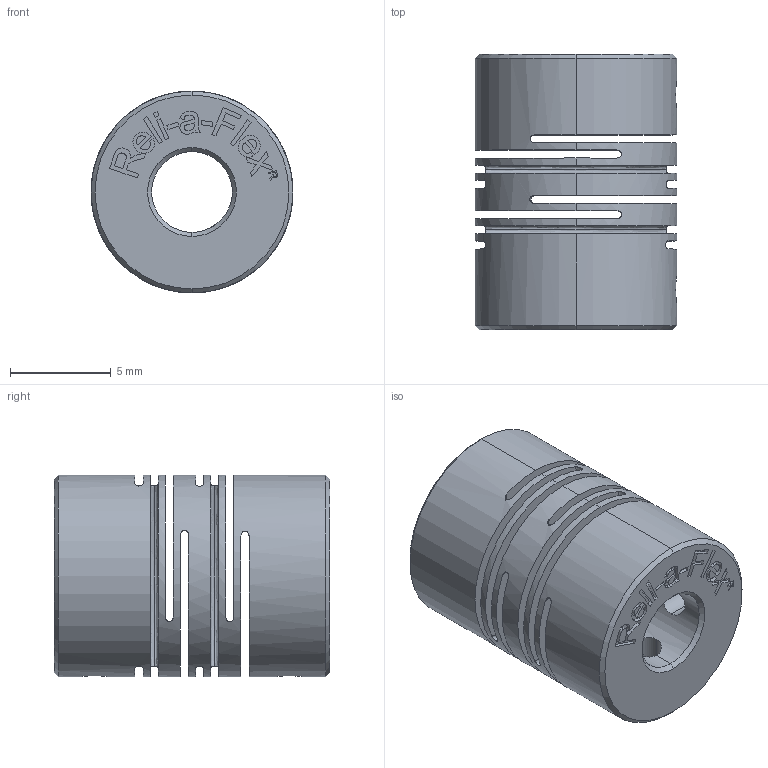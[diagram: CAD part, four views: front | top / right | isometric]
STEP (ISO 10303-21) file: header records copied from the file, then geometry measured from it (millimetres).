
FILE_DESCRIPTION (( 'STEP AP203' ), '1' );
FILE_NAME ('RCSA10-4-4.STEP', '2012-04-26T18:32:02', ( 'render' ), ( '' ), 'SwSTEP 2.0', 'SolidWorks 2011', '' );
FILE_SCHEMA (( 'CONFIG_CONTROL_DESIGN' ));
Length unit declared in the file: millimetre
Products named in the file (1): RCSA10-4-4
Bounding box: 10 x 13.65 x 10 mm (x, y, z)
Volume: 700.9 mm3; surface area: 1502.7 mm2
Topology: 1 solids, 1 shells, 212 faces, 576 edges, 382 vertices
Faces by surface type: plane 120, cylinder 68, bspline 16, cone 8
Entity records: 7455 total; most frequent: CARTESIAN_POINT 2011, ORIENTED_EDGE 1152, DIRECTION 1068, EDGE_CURVE 576, VERTEX_POINT 382, AXIS2_PLACEMENT_3D 367, VECTOR 334, LINE 334
